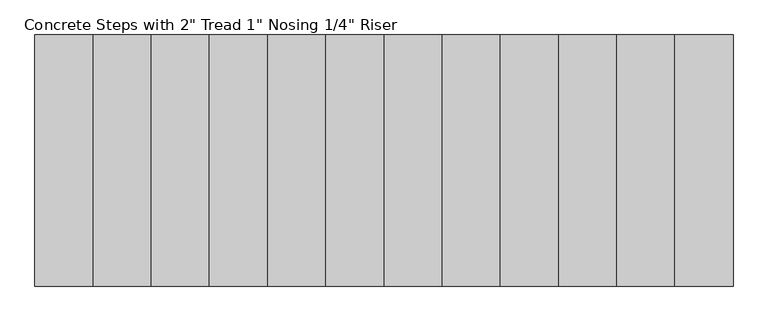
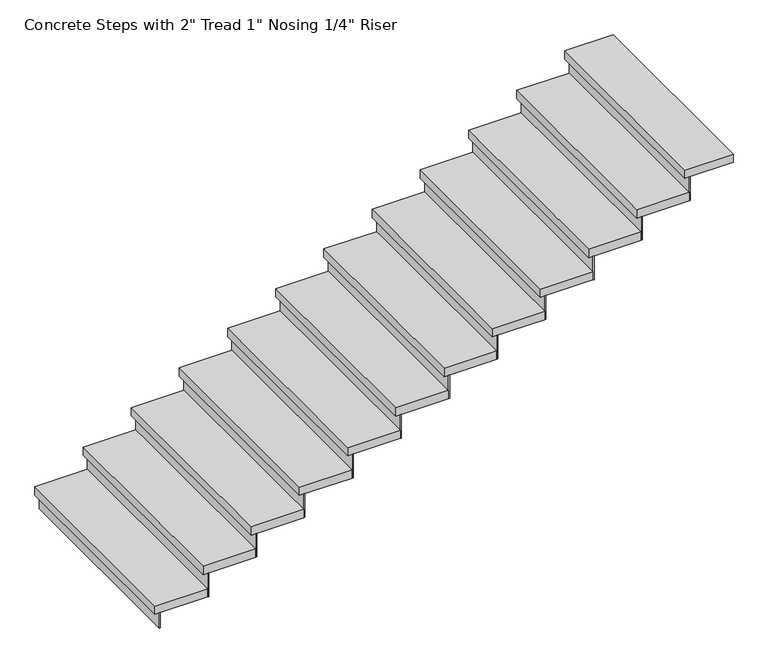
"""IFC4 building model written with IfcOpenShell, lengths in millimetres: stair flight geometry."""

from ifc_helpers import new_model, si_unit, frame, origin, origin_with_axes, place, context, project, spatial, polyline, outline, extrude, source, transform, mapped, element, save


def stair_flight_32776d90(model_context):
    return source(origin(), model_context, "Body", "SweptSolid", [
        extrude(outline(polyline([(-14096.7313244, -3862.1362112), (-14103.0813244, -3862.1362112), (-14103.0813244, -2656.2507772), (-14096.7313244, -2656.2507772), (-14096.7313244, -3862.1362112)])), origin_with_axes(), (0.0, 0.0, 1.0), 94.3428571),
        extrude(outline(polyline([(-13823.6813244, -2656.2507772), (-13823.6813244, -3862.1362112), (-14128.4813244, -3862.1362112), (-14128.4813244, -2656.2507772), (-13823.6813244, -2656.2507772)])), frame((0.0, 0.0, 94.3428571), z_axis=(0.0, 0.0, 1.0), x_axis=(1.0, 0.0, 0.0)), (0.0, 0.0, 1.0), 50.8),
        extrude(outline(polyline([(-13817.3313244, -3862.1362112), (-13823.6813244, -3862.1362112), (-13823.6813244, -2656.2507772), (-13817.3313244, -2656.2507772), (-13817.3313244, -3862.1362112)])), frame((0.0, 0.0, 94.3428571), z_axis=(0.0, 0.0, 1.0), x_axis=(1.0, 0.0, 0.0)), (0.0, 0.0, 1.0), 145.1428571),
        extrude(outline(polyline([(-13544.2813244, -2656.2507772), (-13544.2813244, -3862.1362112), (-13849.0813244, -3862.1362112), (-13849.0813244, -2656.2507772), (-13544.2813244, -2656.2507772)])), frame((0.0, 0.0, 239.4857143), z_axis=(0.0, 0.0, 1.0), x_axis=(1.0, 0.0, 0.0)), (0.0, 0.0, 1.0), 50.8),
        extrude(outline(polyline([(-13537.9313244, -3862.1362112), (-13544.2813244, -3862.1362112), (-13544.2813244, -2656.2507772), (-13537.9313244, -2656.2507772), (-13537.9313244, -3862.1362112)])), frame((0.0, 0.0, 239.4857143), z_axis=(0.0, 0.0, 1.0), x_axis=(1.0, 0.0, 0.0)), (0.0, 0.0, 1.0), 145.1428571),
        extrude(outline(polyline([(-13264.8813244, -2656.2507772), (-13264.8813244, -3862.1362112), (-13569.6813244, -3862.1362112), (-13569.6813244, -2656.2507772), (-13264.8813244, -2656.2507772)])), frame((0.0, 0.0, 384.6285714), z_axis=(0.0, 0.0, 1.0), x_axis=(1.0, 0.0, 0.0)), (0.0, 0.0, 1.0), 50.8),
        extrude(outline(polyline([(-13258.5313244, -3862.1362112), (-13264.8813244, -3862.1362112), (-13264.8813244, -2656.2507772), (-13258.5313244, -2656.2507772), (-13258.5313244, -3862.1362112)])), frame((0.0, 0.0, 384.6285714), z_axis=(0.0, 0.0, 1.0), x_axis=(1.0, 0.0, 0.0)), (0.0, 0.0, 1.0), 145.1428571),
        extrude(outline(polyline([(-12985.4813244, -2656.2507772), (-12985.4813244, -3862.1362112), (-13290.2813244, -3862.1362112), (-13290.2813244, -2656.2507772), (-12985.4813244, -2656.2507772)])), frame((0.0, 0.0, 529.7714286), z_axis=(0.0, 0.0, 1.0), x_axis=(1.0, 0.0, 0.0)), (0.0, 0.0, 1.0), 50.8),
        extrude(outline(polyline([(-12979.1313244, -3862.1362112), (-12985.4813244, -3862.1362112), (-12985.4813244, -2656.2507772), (-12979.1313244, -2656.2507772), (-12979.1313244, -3862.1362112)])), frame((0.0, 0.0, 529.7714286), z_axis=(0.0, 0.0, 1.0), x_axis=(1.0, 0.0, 0.0)), (0.0, 0.0, 1.0), 145.1428571),
        extrude(outline(polyline([(-12706.0813244, -2656.2507772), (-12706.0813244, -3862.1362112), (-13010.8813244, -3862.1362112), (-13010.8813244, -2656.2507772), (-12706.0813244, -2656.2507772)])), frame((0.0, 0.0, 674.9142857), z_axis=(0.0, 0.0, 1.0), x_axis=(1.0, 0.0, 0.0)), (0.0, 0.0, 1.0), 50.8),
        extrude(outline(polyline([(-12699.7313244, -3862.1362112), (-12706.0813244, -3862.1362112), (-12706.0813244, -2656.2507772), (-12699.7313244, -2656.2507772), (-12699.7313244, -3862.1362112)])), frame((0.0, 0.0, 674.9142857), z_axis=(0.0, 0.0, 1.0), x_axis=(1.0, 0.0, 0.0)), (0.0, 0.0, 1.0), 145.1428571),
        extrude(outline(polyline([(-12426.6813244, -2656.2507772), (-12426.6813244, -3862.1362112), (-12731.4813244, -3862.1362112), (-12731.4813244, -2656.2507772), (-12426.6813244, -2656.2507772)])), frame((0.0, 0.0, 820.0571429), z_axis=(0.0, 0.0, 1.0), x_axis=(1.0, 0.0, 0.0)), (0.0, 0.0, 1.0), 50.8),
        extrude(outline(polyline([(-12420.3313244, -3862.1362112), (-12426.6813244, -3862.1362112), (-12426.6813244, -2656.2507772), (-12420.3313244, -2656.2507772), (-12420.3313244, -3862.1362112)])), frame((0.0, 0.0, 820.0571429), z_axis=(0.0, 0.0, 1.0), x_axis=(1.0, 0.0, 0.0)), (0.0, 0.0, 1.0), 145.1428571),
        extrude(outline(polyline([(-12147.2813244, -2656.2507772), (-12147.2813244, -3862.1362112), (-12452.0813244, -3862.1362112), (-12452.0813244, -2656.2507772), (-12147.2813244, -2656.2507772)])), frame((0.0, 0.0, 965.2), z_axis=(0.0, 0.0, 1.0), x_axis=(1.0, 0.0, 0.0)), (0.0, 0.0, 1.0), 50.8),
        extrude(outline(polyline([(-12140.9313244, -3862.1362112), (-12147.2813244, -3862.1362112), (-12147.2813244, -2656.2507772), (-12140.9313244, -2656.2507772), (-12140.9313244, -3862.1362112)])), frame((0.0, 0.0, 965.2), z_axis=(0.0, 0.0, 1.0), x_axis=(1.0, 0.0, 0.0)), (0.0, 0.0, 1.0), 145.1428571),
        extrude(outline(polyline([(-11867.8813244, -2656.2507772), (-11867.8813244, -3862.1362112), (-12172.6813244, -3862.1362112), (-12172.6813244, -2656.2507772), (-11867.8813244, -2656.2507772)])), frame((0.0, 0.0, 1110.3428571), z_axis=(0.0, 0.0, 1.0), x_axis=(1.0, 0.0, 0.0)), (0.0, 0.0, 1.0), 50.8),
        extrude(outline(polyline([(-11861.5313244, -3862.1362112), (-11867.8813244, -3862.1362112), (-11867.8813244, -2656.2507772), (-11861.5313244, -2656.2507772), (-11861.5313244, -3862.1362112)])), frame((0.0, 0.0, 1110.3428571), z_axis=(0.0, 0.0, 1.0), x_axis=(1.0, 0.0, 0.0)), (0.0, 0.0, 1.0), 145.1428571),
        extrude(outline(polyline([(-11588.4813244, -2656.2507772), (-11588.4813244, -3862.1362112), (-11893.2813244, -3862.1362112), (-11893.2813244, -2656.2507772), (-11588.4813244, -2656.2507772)])), frame((0.0, 0.0, 1255.4857143), z_axis=(0.0, 0.0, 1.0), x_axis=(1.0, 0.0, 0.0)), (0.0, 0.0, 1.0), 50.8),
        extrude(outline(polyline([(-11582.1313244, -3862.1362112), (-11588.4813244, -3862.1362112), (-11588.4813244, -2656.2507772), (-11582.1313244, -2656.2507772), (-11582.1313244, -3862.1362112)])), frame((0.0, 0.0, 1255.4857143), z_axis=(0.0, 0.0, 1.0), x_axis=(1.0, 0.0, 0.0)), (0.0, 0.0, 1.0), 145.1428571),
        extrude(outline(polyline([(-11309.0813244, -2656.2507772), (-11309.0813244, -3862.1362112), (-11613.8813244, -3862.1362112), (-11613.8813244, -2656.2507772), (-11309.0813244, -2656.2507772)])), frame((0.0, 0.0, 1400.6285714), z_axis=(0.0, 0.0, 1.0), x_axis=(1.0, 0.0, 0.0)), (0.0, 0.0, 1.0), 50.8),
        extrude(outline(polyline([(-11302.7313244, -3862.1362112), (-11309.0813244, -3862.1362112), (-11309.0813244, -2656.2507772), (-11302.7313244, -2656.2507772), (-11302.7313244, -3862.1362112)])), frame((0.0, 0.0, 1400.6285714), z_axis=(0.0, 0.0, 1.0), x_axis=(1.0, 0.0, 0.0)), (0.0, 0.0, 1.0), 145.1428571),
        extrude(outline(polyline([(-11029.6813244, -2656.2507772), (-11029.6813244, -3862.1362112), (-11334.4813244, -3862.1362112), (-11334.4813244, -2656.2507772), (-11029.6813244, -2656.2507772)])), frame((0.0, 0.0, 1545.7714286), z_axis=(0.0, 0.0, 1.0), x_axis=(1.0, 0.0, 0.0)), (0.0, 0.0, 1.0), 50.8),
        extrude(outline(polyline([(-11023.3313244, -3862.1362112), (-11029.6813244, -3862.1362112), (-11029.6813244, -2656.2507772), (-11023.3313244, -2656.2507772), (-11023.3313244, -3862.1362112)])), frame((0.0, 0.0, 1545.7714286), z_axis=(0.0, 0.0, 1.0), x_axis=(1.0, 0.0, 0.0)), (0.0, 0.0, 1.0), 145.1428571),
        extrude(outline(polyline([(-10775.6813244, -2656.2507772), (-10775.6813244, -3862.1362112), (-11055.0813244, -3862.1362112), (-11055.0813244, -2656.2507772), (-10775.6813244, -2656.2507772)])), frame((0.0, 0.0, 1690.9142857), z_axis=(0.0, 0.0, 1.0), x_axis=(1.0, 0.0, 0.0)), (0.0, 0.0, 1.0), 50.8),
    ])


if __name__ == "__main__":
    model = new_model("IFC4")
    model_context = context("Model", 3, world=origin())
    ifc_project = project(units=[si_unit("LENGTHUNIT", "METRE", prefix="MILLI")], contexts=[model_context])
    site = spatial("IfcSite", under=ifc_project)
    building = spatial("IfcBuilding", under=site)
    placement = place(None, origin())
    stair_flight_shape = stair_flight_32776d90(model_context)
    element("IfcStairFlight", 1, ObjectType="Concrete Steps with 2\" Tread 1\" Nosing 1/4\" Riser", at=placement, inside=building, context=model_context, shape_type="MappedRepresentation", body=[
        mapped(stair_flight_shape, transform((0.0, 0.0, 0.0), x_axis=(1.0, 0.0, 0.0), y_axis=(0.0, 1.0, 0.0), z_axis=(0.0, 0.0, 1.0))),
    ])
    save(model, "model.ifc")
